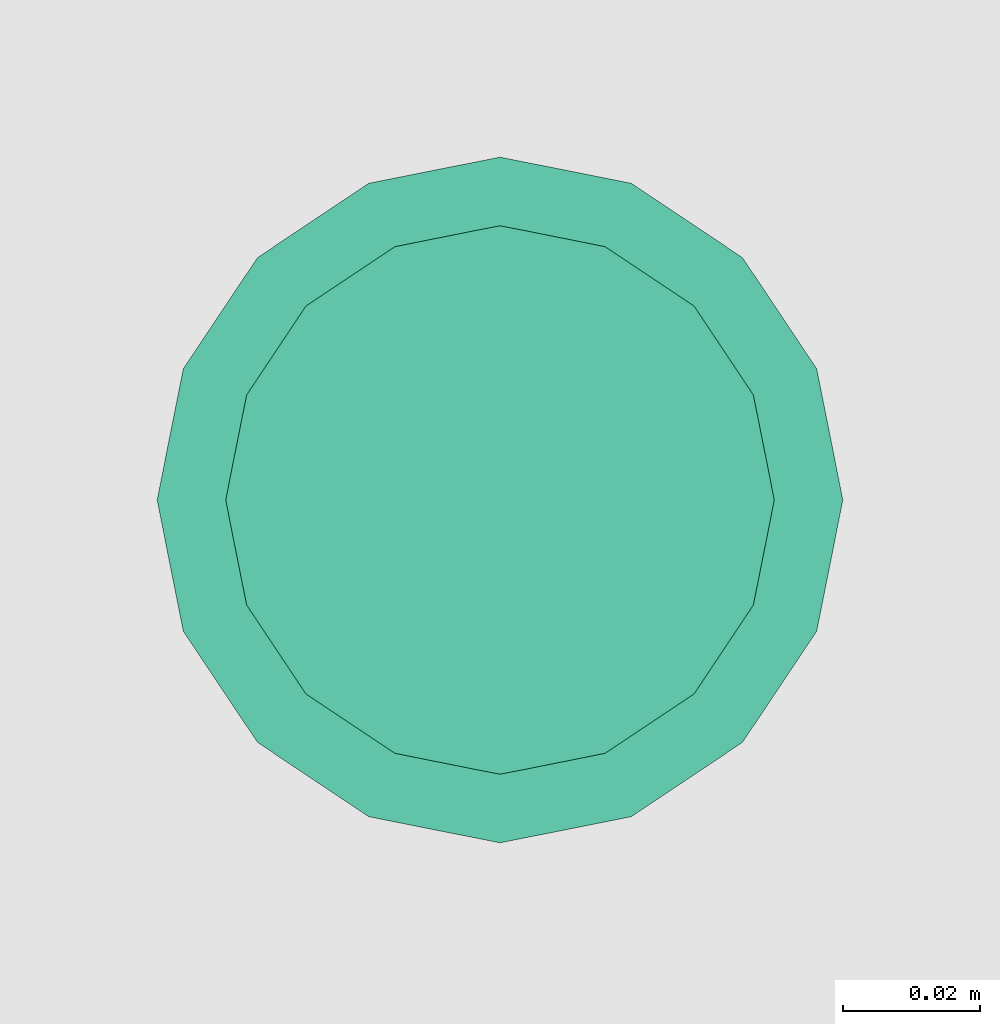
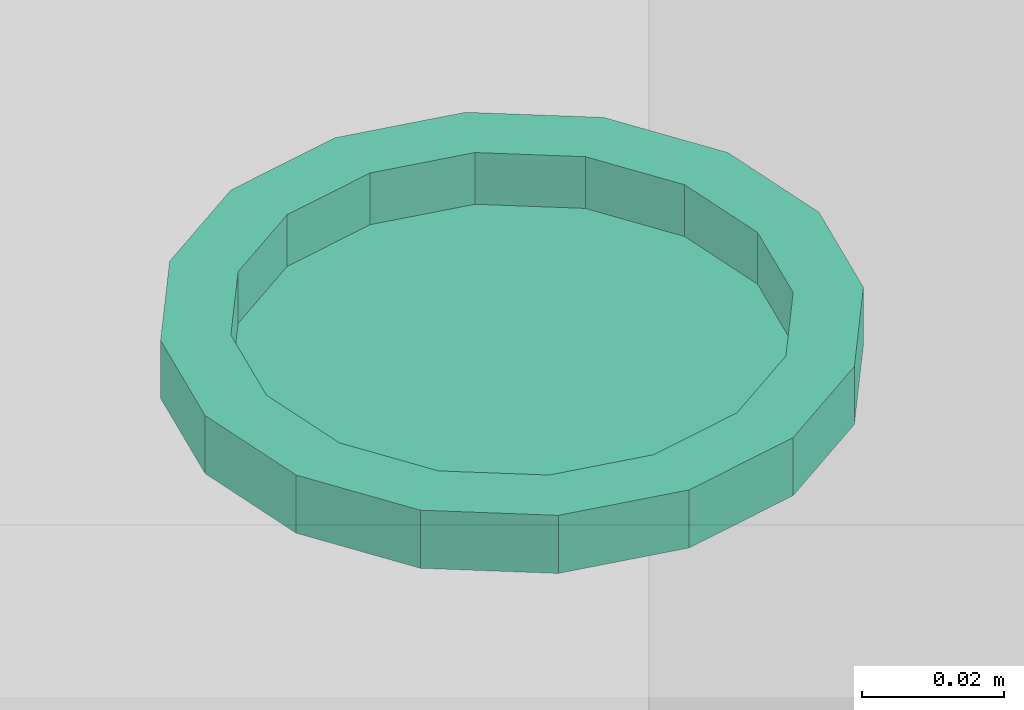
# One storey, part 233 of 347: 1 flow terminal.
"""IFC2X3 building model written with IfcOpenShell, lengths in millimetres."""

from ifc_helpers import new_model, entity, si_unit, converted_unit, derived_unit, money_unit, direction, frame, origin_with_axes, place, context, subcontext, project, spatial, open_shell, faceted_brep, surface_model, source, transform, mapped, type_object, type_shapes, element, save


model = new_model("IFC2X3")

# Units and contexts
model_context = context("Model", 3, precision=0.01, world=origin_with_axes(), true_north=direction((0.0, 1.0)))
plan_context = context("Plan", 3, precision=0.01, world=origin_with_axes(), true_north=direction((0.0, 1.0)))
body_context = subcontext(model_context, "Body", "Model", "MODEL_VIEW")
ifc_project = project(units=[si_unit("LENGTHUNIT", "METRE", prefix="MILLI"), si_unit("AREAUNIT", "SQUARE_METRE"), si_unit("VOLUMEUNIT", "CUBIC_METRE"), converted_unit("PLANEANGLEUNIT", "DEGREE", entity("IfcPlaneAngleMeasure", 0.0174532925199), si_unit("PLANEANGLEUNIT", "RADIAN"), dimensions=[0, 0, 0, 0, 0, 0, 0]), money_unit("EUR"), converted_unit("TIMEUNIT", "Year", entity("IfcTimeMeasure", 31556926.0), si_unit("TIMEUNIT", "SECOND"), dimensions=[0, 0, 1, 0, 0, 0, 0]), si_unit("MASSUNIT", "GRAM", prefix="KILO"), si_unit("THERMODYNAMICTEMPERATUREUNIT", "DEGREE_CELSIUS"), si_unit("LUMINOUSINTENSITYUNIT", "LUMEN"), si_unit("ENERGYUNIT", "JOULE", prefix="MEGA"), derived_unit("THERMALCONDUCTANCEUNIT", [(si_unit("POWERUNIT", "WATT"), 1), (si_unit("LENGTHUNIT", "METRE"), -1), (si_unit("THERMODYNAMICTEMPERATUREUNIT", "KELVIN"), -1)]), derived_unit("SPECIFICHEATCAPACITYUNIT", [(si_unit("ENERGYUNIT", "JOULE"), 1), (si_unit("MASSUNIT", "GRAM", prefix="KILO"), -1), (si_unit("THERMODYNAMICTEMPERATUREUNIT", "KELVIN"), -1)]), derived_unit("MASSDENSITYUNIT", [(si_unit("MASSUNIT", "GRAM", prefix="KILO"), 1), (si_unit("VOLUMEUNIT", "CUBIC_METRE"), -1)])], contexts=[model_context, plan_context])

# Site, building, storey
site_placement = place(None, origin_with_axes())
site = spatial("IfcSite", under=ifc_project, at=site_placement, Name="Site", CompositionType="ELEMENT")
building_placement = place(site_placement, origin_with_axes())
building = spatial("IfcBuilding", under=site, at=building_placement, Name="Naam gebouw", CompositionType="ELEMENT")
storey_placement = place(building_placement, origin_with_axes())
storey = spatial("IfcBuildingStorey", under=building, at=storey_placement, Name="begane grond", CompositionType="ELEMENT", Elevation=0.0)

# Flow terminal
lamp_type = type_object("IfcLampType", Name="Spot plafond 01 25", PredefinedType="NOTDEFINED")
shared_shape = source(origin_with_axes(), body_context, "Body", "SurfaceModel", [
    faceted_brep([(50.0, 0.0, -10.0), (46.1939766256, 19.1341716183, -10.0), (46.1939766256, 19.1341716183, 0.0), (50.0, 0.0, 0.0), (46.1939766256, -19.1341716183, -10.0), (35.3553390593, -35.3553390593, -10.0), (19.1341716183, -46.1939766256, -10.0), (0.0, -50.0, -10.0), (-19.1341716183, -46.1939766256, -10.0), (-35.3553390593, -35.3553390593, -10.0), (-46.1939766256, -19.1341716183, -10.0), (-50.0, 0.0, -10.0), (-46.1939766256, 19.1341716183, -10.0), (-35.3553390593, 35.3553390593, -10.0), (-19.1341716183, 46.1939766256, -10.0), (0.0, 50.0, -10.0), (19.1341716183, 46.1939766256, -10.0), (35.3553390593, 35.3553390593, -10.0), (40.0, 0.0, -10.0), (36.9551813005, 15.3073372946, -10.0), (28.2842712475, 28.2842712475, -10.0), (15.3073372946, 36.9551813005, -10.0), (0.0, 40.0, -10.0), (-15.3073372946, 36.9551813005, -10.0), (-28.2842712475, 28.2842712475, -10.0), (-36.9551813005, 15.3073372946, -10.0), (-40.0, 0.0, -10.0), (-36.9551813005, -15.3073372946, -10.0), (-28.2842712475, -28.2842712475, -10.0), (-15.3073372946, -36.9551813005, -10.0), (0.0, -40.0, -10.0), (15.3073372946, -36.9551813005, -10.0), (28.2842712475, -28.2842712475, -10.0), (36.9551813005, -15.3073372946, -10.0), (35.3553390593, 35.3553390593, 0.0), (19.1341716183, 46.1939766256, 0.0), (0.0, 50.0, 0.0), (-19.1341716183, 46.1939766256, 0.0), (-35.3553390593, 35.3553390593, 0.0), (-46.1939766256, 19.1341716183, 0.0), (-50.0, 0.0, 0.0), (-46.1939766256, -19.1341716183, 0.0), (-35.3553390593, -35.3553390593, 0.0), (-19.1341716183, -46.1939766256, 0.0), (0.0, -50.0, 0.0), (19.1341716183, -46.1939766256, 0.0), (35.3553390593, -35.3553390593, 0.0), (46.1939766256, -19.1341716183, 0.0), (40.0, 0.0, 0.0), (36.9551813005, -15.3073372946, 0.0), (28.2842712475, -28.2842712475, 0.0), (15.3073372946, -36.9551813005, 0.0), (0.0, -40.0, 0.0), (-15.3073372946, -36.9551813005, 0.0), (-28.2842712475, -28.2842712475, 0.0), (-36.9551813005, -15.3073372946, 0.0), (-40.0, 0.0, 0.0), (-36.9551813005, 15.3073372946, 0.0), (-28.2842712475, 28.2842712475, 0.0), (-15.3073372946, 36.9551813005, 0.0), (0.0, 40.0, 0.0), (15.3073372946, 36.9551813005, 0.0), (28.2842712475, 28.2842712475, 0.0), (36.9551813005, 15.3073372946, 0.0)], [[[0, 1, 2, 3]], [[0, 4, 5, 6, 7, 8, 9, 10, 11, 12, 13, 14, 15, 16, 17, 1], [18, 19, 20, 21, 22, 23, 24, 25, 26, 27, 28, 29, 30, 31, 32, 33]], [[1, 17, 34, 2]], [[3, 2, 34, 35, 36, 37, 38, 39, 40, 41, 42, 43, 44, 45, 46, 47], [48, 49, 50, 51, 52, 53, 54, 55, 56, 57, 58, 59, 60, 61, 62, 63]], [[4, 0, 3, 47]], [[5, 4, 47, 46]], [[6, 5, 46, 45]], [[7, 6, 45, 44]], [[8, 7, 44, 43]], [[9, 8, 43, 42]], [[10, 9, 42, 41]], [[11, 10, 41, 40]], [[12, 11, 40, 39]], [[13, 12, 39, 38]], [[14, 13, 38, 37]], [[15, 14, 37, 36]], [[16, 15, 36, 35]], [[17, 16, 35, 34]], [[19, 18, 48, 63]], [[20, 19, 63, 62]], [[21, 20, 62, 61]], [[22, 21, 61, 60]], [[23, 22, 60, 59]], [[24, 23, 59, 58]], [[25, 24, 58, 57]], [[26, 25, 57, 56]], [[27, 26, 56, 55]], [[28, 27, 55, 54]], [[29, 28, 54, 53]], [[30, 29, 53, 52]], [[31, 30, 52, 51]], [[32, 31, 51, 50]], [[33, 32, 50, 49]], [[18, 33, 49, 48]]]),
    surface_model("IfcShellBasedSurfaceModel", [(40.0, 0.0, -8.9), (36.9551813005, -15.3073372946, -8.9), (28.2842712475, -28.2842712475, -8.9), (15.3073372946, -36.9551813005, -8.9), (0.0, -40.0, -8.9), (-15.3073372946, -36.9551813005, -8.9), (-28.2842712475, -28.2842712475, -8.9), (-36.9551813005, -15.3073372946, -8.9), (-40.0, 0.0, -8.9), (-36.9551813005, 15.3073372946, -8.9), (-28.2842712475, 28.2842712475, -8.9), (-15.3073372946, 36.9551813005, -8.9), (0.0, 40.0, -8.9), (15.3073372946, 36.9551813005, -8.9), (28.2842712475, 28.2842712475, -8.9), (36.9551813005, 15.3073372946, -8.9)], [open_shell([[[0, 1, 2, 3, 4, 5, 6, 7, 8, 9, 10, 11, 12, 13, 14, 15]]])]),
])
type_shapes(lamp_type, [shared_shape])
flow_terminal_placement = place(storey_placement, frame((36340.0, 33189.9999277, 2600.0), z_axis=(0.0, 0.0, 1.0), x_axis=(1.0, 0.0, 0.0)))
element("IfcFlowTerminal", 1, at=flow_terminal_placement, inside=storey, type_object=lamp_type, Name="63_Lamp-x", ObjectType="Lamp", context=body_context, shape_type="MappedRepresentation", body=[
    mapped(shared_shape, transform((0.0, 0.0, 0.0))),
])

save(model, "model.ifc")
